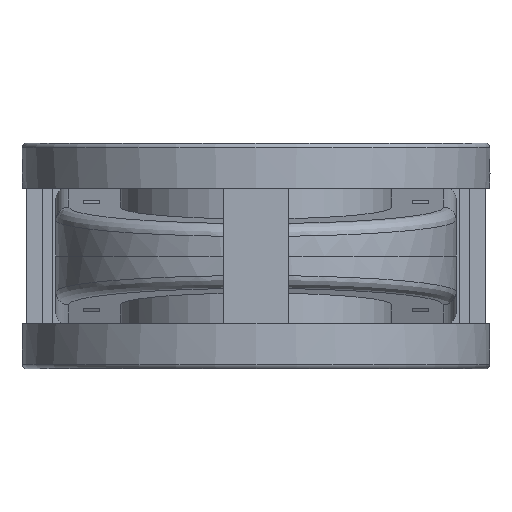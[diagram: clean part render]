
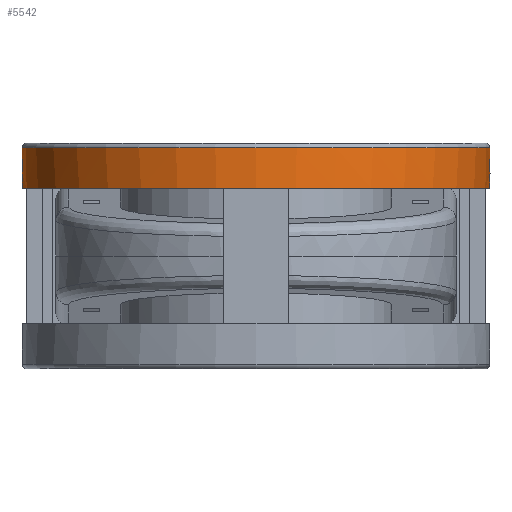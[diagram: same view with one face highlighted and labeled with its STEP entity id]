
A CAD part, front view. The second image highlights one B-rep face of the part: STEP entity #5542.
In plain terms, the highlighted cylindrical face has radius 72.5 mm (diameter 145 mm), a full revolution.
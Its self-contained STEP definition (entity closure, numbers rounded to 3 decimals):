
#2828=CIRCLE('',#27848,72.5);
#2829=CIRCLE('',#27852,72.5);
#2830=CIRCLE('',#27854,72.5);
#2831=CIRCLE('',#27856,72.5);
#3637=CYLINDRICAL_SURFACE('',#27858,72.5);
#5542=ADVANCED_FACE('',(#11502,#11503,#11504,#11505),#3637,.T.);
#11502=FACE_BOUND('',#12812,.T.);
#11503=FACE_BOUND('',#12813,.T.);
#11504=FACE_BOUND('',#12814,.T.);
#11505=FACE_BOUND('',#12815,.T.);
#12812=EDGE_LOOP('',(#17075,#17076,#17077));
#12813=EDGE_LOOP('',(#17078,#17079,#17080));
#12814=EDGE_LOOP('',(#17081));
#12815=EDGE_LOOP('',(#17082,#17083));
#17075=ORIENTED_EDGE('',*,*,#25100,.F.);
#17076=ORIENTED_EDGE('',*,*,#25101,.F.);
#17077=ORIENTED_EDGE('',*,*,#25102,.F.);
#17078=ORIENTED_EDGE('',*,*,#25103,.F.);
#17079=ORIENTED_EDGE('',*,*,#25104,.F.);
#17080=ORIENTED_EDGE('',*,*,#25105,.F.);
#17081=ORIENTED_EDGE('',*,*,#25106,.T.);
#17082=ORIENTED_EDGE('',*,*,#25098,.F.);
#17083=ORIENTED_EDGE('',*,*,#25107,.T.);
#22147=VERTEX_POINT('',#42128);
#22148=VERTEX_POINT('',#42129);
#22149=VERTEX_POINT('',#42133);
#22150=VERTEX_POINT('',#42134);
#22151=VERTEX_POINT('',#42136);
#22152=VERTEX_POINT('',#42139);
#22153=VERTEX_POINT('',#42140);
#22154=VERTEX_POINT('',#42142);
#22155=VERTEX_POINT('',#42145);
#25098=EDGE_CURVE('',#22147,#22148,#2828,.T.);
#25100=EDGE_CURVE('',#22149,#22150,#27107,.T.);
#25101=EDGE_CURVE('',#22151,#22149,#27108,.T.);
#25102=EDGE_CURVE('',#22150,#22151,#2829,.T.);
#25103=EDGE_CURVE('',#22152,#22153,#27109,.T.);
#25104=EDGE_CURVE('',#22154,#22152,#2830,.T.);
#25105=EDGE_CURVE('',#22153,#22154,#27110,.T.);
#25106=EDGE_CURVE('',#22155,#22155,#2831,.T.);
#25107=EDGE_CURVE('',#22147,#22148,#27111,.T.);
#27107=ELLIPSE('',#27850,145.,72.5);
#27108=ELLIPSE('',#27851,145.,72.5);
#27109=ELLIPSE('',#27853,145.,72.5);
#27110=ELLIPSE('',#27855,145.,72.5);
#27111=ELLIPSE('',#27857,72.777,72.5);
#27848=AXIS2_PLACEMENT_3D('',#42127,#31415,#31416);
#27850=AXIS2_PLACEMENT_3D('',#42132,#31420,#31421);
#27851=AXIS2_PLACEMENT_3D('',#42135,#31422,#31423);
#27852=AXIS2_PLACEMENT_3D('',#42137,#31424,#31425);
#27853=AXIS2_PLACEMENT_3D('',#42138,#31426,#31427);
#27854=AXIS2_PLACEMENT_3D('',#42141,#31428,#31429);
#27855=AXIS2_PLACEMENT_3D('',#42143,#31430,#31431);
#27856=AXIS2_PLACEMENT_3D('',#42144,#31432,#31433);
#27857=AXIS2_PLACEMENT_3D('',#42146,#31434,#31435);
#27858=AXIS2_PLACEMENT_3D('',#42147,#31436,#31437);
#31415=DIRECTION('',(-1.,0.,0.));
#31416=DIRECTION('',(0.,1.,0.));
#31420=DIRECTION('',(0.5,-0.866,0.));
#31421=DIRECTION('',(-0.866,-0.5,0.));
#31422=DIRECTION('',(0.5,0.866,0.));
#31423=DIRECTION('',(-0.866,0.5,0.));
#31424=DIRECTION('',(-1.,0.,0.));
#31425=DIRECTION('',(0.,1.,0.));
#31426=DIRECTION('',(0.5,-0.866,0.));
#31427=DIRECTION('',(-0.866,-0.5,0.));
#31428=DIRECTION('',(-1.,0.,0.));
#31429=DIRECTION('',(0.,1.,0.));
#31430=DIRECTION('',(0.5,0.866,0.));
#31431=DIRECTION('',(-0.866,0.5,0.));
#31432=DIRECTION('',(-1.,0.,0.));
#31433=DIRECTION('',(0.,1.,0.));
#31434=DIRECTION('',(0.996,-0.087,0.));
#31435=DIRECTION('',(-0.087,-0.996,0.));
#31436=DIRECTION('',(-1.,0.,0.));
#31437=DIRECTION('',(0.,1.,0.));
#42127=CARTESIAN_POINT('',(21.,0.,0.));
#42128=CARTESIAN_POINT('',(21.,66.785,-28.214));
#42129=CARTESIAN_POINT('',(21.,66.785,28.214));
#42132=CARTESIAN_POINT('',(25.5,0.,0.));
#42133=CARTESIAN_POINT('',(25.5,0.,-72.5));
#42134=CARTESIAN_POINT('',(30.,2.598,-72.453));
#42135=CARTESIAN_POINT('',(25.5,0.,0.));
#42136=CARTESIAN_POINT('',(30.,-2.598,-72.453));
#42137=CARTESIAN_POINT('',(30.,0.,0.));
#42138=CARTESIAN_POINT('',(25.5,0.,0.));
#42139=CARTESIAN_POINT('',(30.,2.598,72.453));
#42140=CARTESIAN_POINT('',(25.5,0.,72.5));
#42141=CARTESIAN_POINT('',(30.,0.,0.));
#42142=CARTESIAN_POINT('',(30.,-2.598,72.453));
#42143=CARTESIAN_POINT('',(25.5,0.,0.));
#42144=CARTESIAN_POINT('',(33.5,0.,0.));
#42145=CARTESIAN_POINT('',(33.5,72.5,0.));
#42146=CARTESIAN_POINT('',(15.157,0.,0.));
#42147=CARTESIAN_POINT('',(13.6,0.,0.));
